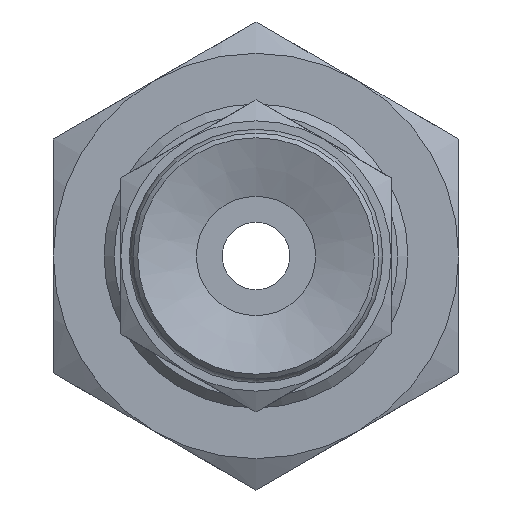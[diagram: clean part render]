
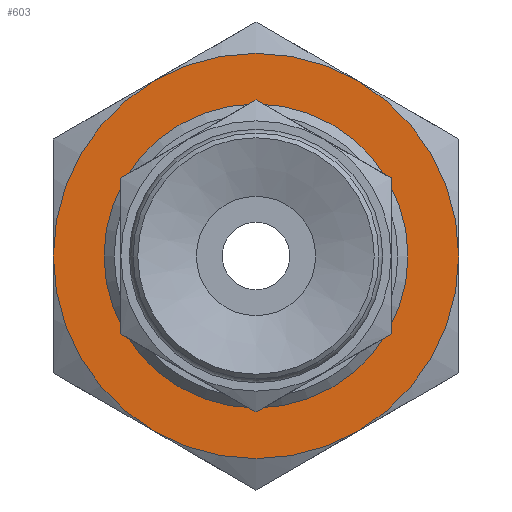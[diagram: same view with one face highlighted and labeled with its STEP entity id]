
A CAD part, front view. The second image highlights one B-rep face of the part: STEP entity #603.
In plain terms, the highlighted planar face has unit normal (0, -1, 0) as drawn and (0, 0, 1) by its records, which use the part's own axes.
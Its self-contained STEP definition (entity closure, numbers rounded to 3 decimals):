
#603=ADVANCED_FACE('',(#810,#811),#812,.T.);
#810=FACE_BOUND('',#1201,.T.);
#811=FACE_OUTER_BOUND('',#1202,.T.);
#812=PLANE('',#1203);
#1201=EDGE_LOOP('',(#1762));
#1202=EDGE_LOOP('',(#1763,#1764,#1765,#1766,#1767,#1768));
#1203=AXIS2_PLACEMENT_3D('',#1769,#1770,#1771);
#1762=ORIENTED_EDGE('',*,*,#2527,.T.);
#1763=ORIENTED_EDGE('',*,*,#2528,.T.);
#1764=ORIENTED_EDGE('',*,*,#2504,.T.);
#1765=ORIENTED_EDGE('',*,*,#2526,.T.);
#1766=ORIENTED_EDGE('',*,*,#2496,.T.);
#1767=ORIENTED_EDGE('',*,*,#2529,.T.);
#1768=ORIENTED_EDGE('',*,*,#2515,.T.);
#1769=CARTESIAN_POINT('',(-6.928,-6.0,3.0));
#1770=DIRECTION('',(0.0,0.0,1.0));
#1771=DIRECTION('',(1.0,0.0,0.0));
#2496=EDGE_CURVE('',#2768,#2759,#2769,.T.);
#2504=EDGE_CURVE('',#2783,#2774,#2784,.T.);
#2515=EDGE_CURVE('',#2802,#2793,#2803,.T.);
#2526=EDGE_CURVE('',#2774,#2768,#2818,.T.);
#2527=EDGE_CURVE('',#2819,#2819,#2820,.T.);
#2528=EDGE_CURVE('',#2793,#2783,#2821,.T.);
#2529=EDGE_CURVE('',#2759,#2802,#2822,.T.);
#2759=VERTEX_POINT('',#3258);
#2768=VERTEX_POINT('',#3280);
#2769=CIRCLE('',#3281,6.0);
#2774=VERTEX_POINT('',#3289);
#2783=VERTEX_POINT('',#3315);
#2784=CIRCLE('',#3316,6.0);
#2793=VERTEX_POINT('',#3338);
#2802=VERTEX_POINT('',#3360);
#2803=CIRCLE('',#3361,6.0);
#2818=CIRCLE('',#3398,6.0);
#2819=VERTEX_POINT('',#3399);
#2820=CIRCLE('',#3400,3.925);
#2821=CIRCLE('',#3401,6.0);
#2822=CIRCLE('',#3402,6.0);
#3258=CARTESIAN_POINT('',(-5.196,-3.0,3.0));
#3280=CARTESIAN_POINT('',(-5.196,3.0,3.0));
#3281=AXIS2_PLACEMENT_3D('',#3802,#3803,#3804);
#3289=CARTESIAN_POINT('',(0.,6.0,3.0));
#3315=CARTESIAN_POINT('',(5.196,3.0,3.0));
#3316=AXIS2_PLACEMENT_3D('',#3807,#3808,#3809);
#3338=CARTESIAN_POINT('',(5.196,-3.0,3.0));
#3360=CARTESIAN_POINT('',(0.,-6.0,3.0));
#3361=AXIS2_PLACEMENT_3D('',#3812,#3813,#3814);
#3398=AXIS2_PLACEMENT_3D('',#3827,#3828,#3829);
#3399=CARTESIAN_POINT('',(3.925,0.0,3.0));
#3400=AXIS2_PLACEMENT_3D('',#3830,#3831,#3832);
#3401=AXIS2_PLACEMENT_3D('',#3833,#3834,#3835);
#3402=AXIS2_PLACEMENT_3D('',#3836,#3837,#3838);
#3802=CARTESIAN_POINT('',(0.,0.0,3.0));
#3803=DIRECTION('',(0.0,0.,1.0));
#3804=DIRECTION('',(0.0,-1.0,0.));
#3807=CARTESIAN_POINT('',(0.,0.0,3.0));
#3808=DIRECTION('',(0.0,0.,1.0));
#3809=DIRECTION('',(0.0,-1.0,0.));
#3812=CARTESIAN_POINT('',(0.,0.0,3.0));
#3813=DIRECTION('',(0.0,0.,1.0));
#3814=DIRECTION('',(0.0,-1.0,0.));
#3827=CARTESIAN_POINT('',(0.,0.0,3.0));
#3828=DIRECTION('',(0.0,0.,1.0));
#3829=DIRECTION('',(0.0,-1.0,0.));
#3830=CARTESIAN_POINT('',(0.0,0.0,3.0));
#3831=DIRECTION('',(0.0,0.0,-1.0));
#3832=DIRECTION('',(1.0,0.0,0.0));
#3833=CARTESIAN_POINT('',(0.,0.0,3.0));
#3834=DIRECTION('',(0.0,0.,1.0));
#3835=DIRECTION('',(0.0,-1.0,0.));
#3836=CARTESIAN_POINT('',(0.,0.0,3.0));
#3837=DIRECTION('',(0.0,0.,1.0));
#3838=DIRECTION('',(0.0,-1.0,0.));
